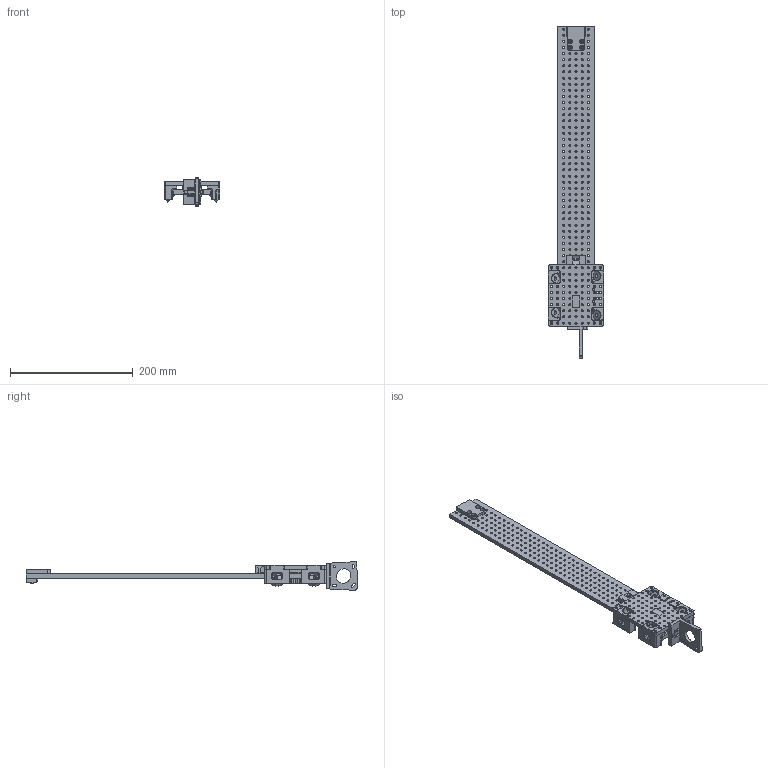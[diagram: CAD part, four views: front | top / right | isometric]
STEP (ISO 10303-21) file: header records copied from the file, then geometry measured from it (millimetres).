
FILE_DESCRIPTION(/* description */ (''),/* implementation_level */ '2;1');
FILE_NAME(/* name */ 'D:/dropbox/CBA/projects/machines/rctgantries/n17_linearPulley/RCT N17 Linear Pulley v11.step',/* time_stamp */ '2019-02-15T13:28:05-05:00',/* author */ ('jakerobertread@gmail.com'),/* organization */ (''),/* preprocessor_version */ 'ST-DEVELOPER v17.2',/* originating_system */ 'Autodesk Translation Framework v7.6.0.251',/* authorisation */ '');
FILE_SCHEMA (('AUTOMOTIVE_DESIGN { 1 0 10303 214 3 1 1 }'));
Length unit declared in the file: millimetre
Products named in the file (1): RCT N17 Linear Pulley
Bounding box: 90 x 542.03 x 46.82 mm (x, y, z)
Volume: 310587.1 mm3; surface area: 156405.2 mm2
Topology: 24 solids, 24 shells, 1150 faces, 3173 edges, 2064 vertices
Faces by surface type: cylinder 719, plane 320, bspline 69, torus 28, sphere 8, cone 6
Full cylindrical faces by diameter (mm): 3.1 x20, 3.25 x3, 3.283 x4, 3.3 x295, 3.5 x3, 3.683 x4, 4.064 x18, 4.25 x6, 4.75 x4, 5 x2, 5.4 x7, 6 x18, 7.5 x4, 8 x4, 16 x10, 17.5 x2
Entity records: 41803 total; most frequent: CARTESIAN_POINT 10135, DIRECTION 6644, ORIENTED_EDGE 6332, EDGE_CURVE 3166, AXIS2_PLACEMENT_3D 2606, VERTEX_POINT 2064, EDGE_LOOP 1926, LINE 1432
